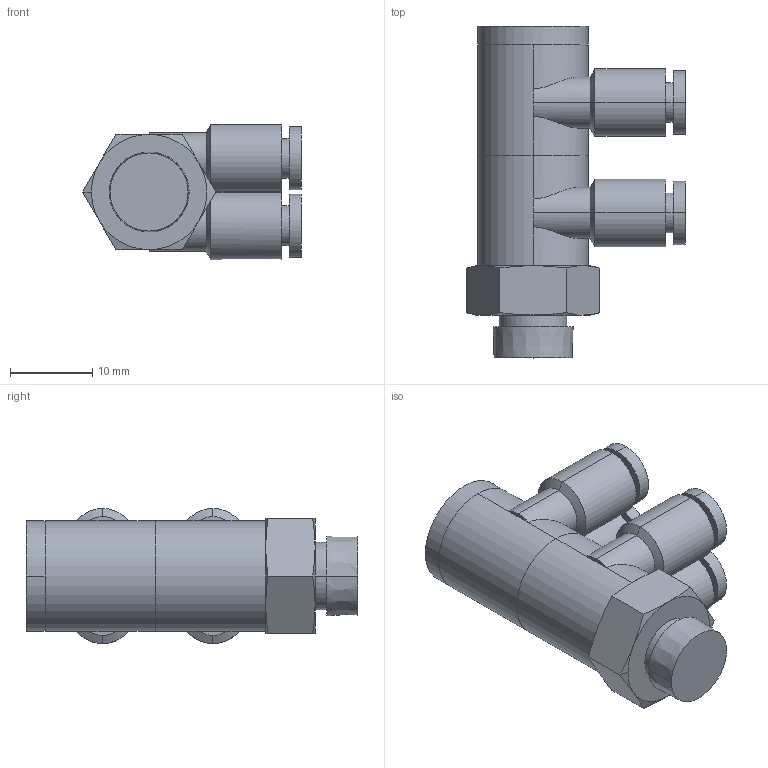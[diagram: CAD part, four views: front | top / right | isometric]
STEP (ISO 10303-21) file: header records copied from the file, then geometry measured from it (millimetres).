
FILE_DESCRIPTION (( 'STEP AP203' ), '1' );
FILE_NAME ('FZD04-01.STEP', '2020-05-11T14:44:59', ( '' ), ( '' ), 'SwSTEP 2.0', 'SolidWorks 2019', '' );
FILE_SCHEMA (( 'CONFIG_CONTROL_DESIGN' ));
Length unit declared in the file: millimetre
Products named in the file (1): FZD04-01
Bounding box: 26.58 x 40.3 x 16.4 mm (x, y, z)
Volume: 7313.1 mm3; surface area: 6459.3 mm2
Topology: 3 solids, 3 shells, 118 faces, 274 edges, 172 vertices
Faces by surface type: cylinder 52, plane 42, cone 24
Entity records: 4351 total; most frequent: CARTESIAN_POINT 1545, DIRECTION 592, ORIENTED_EDGE 548, EDGE_CURVE 274, AXIS2_PLACEMENT_3D 247, VERTEX_POINT 172, EDGE_LOOP 140, CIRCLE 128
